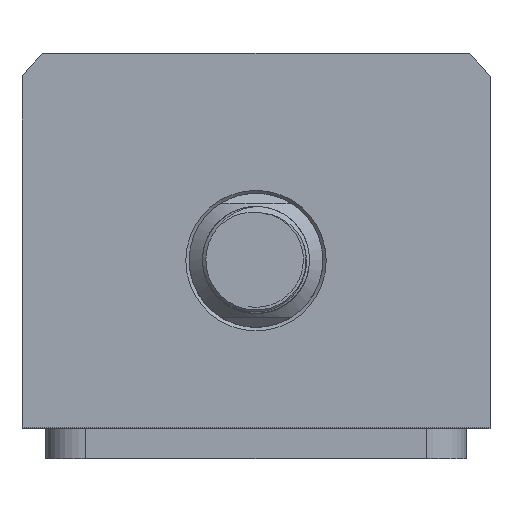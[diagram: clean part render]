
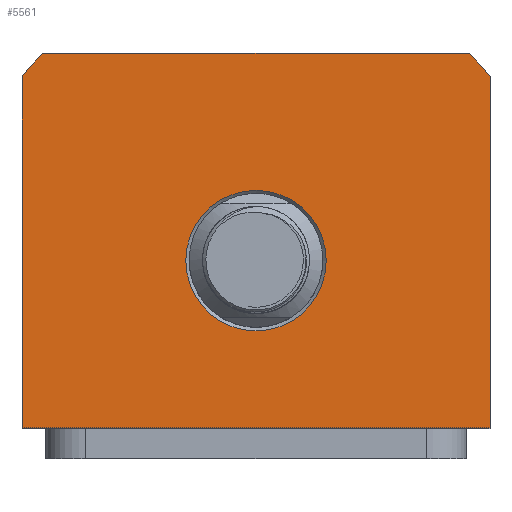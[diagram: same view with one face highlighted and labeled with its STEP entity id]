
A CAD part, top view. The second image highlights one B-rep face of the part: STEP entity #5561.
In plain terms, the highlighted planar face has unit normal (0, 0, 1).
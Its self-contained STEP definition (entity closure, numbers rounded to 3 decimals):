
#2494=PLANE('',#12169);
#2995=LINE('',#18537,#3856);
#3016=LINE('',#19175,#3877);
#3029=LINE('',#19224,#3890);
#3041=LINE('',#19253,#3902);
#3856=VECTOR('',#12704,1.);
#3877=VECTOR('',#12839,1.);
#3890=VECTOR('',#12888,1.);
#3902=VECTOR('',#12914,1.);
#5561=ADVANCED_FACE('',(#6109,#6110),#2494,.T.);
#6109=FACE_BOUND('',#6329,.T.);
#6110=FACE_BOUND('',#6330,.T.);
#6329=EDGE_LOOP('',(#7369));
#6330=EDGE_LOOP('',(#7370,#7371,#7372,#7373,#7374,#7375));
#7369=ORIENTED_EDGE('',*,*,#10730,.T.);
#7370=ORIENTED_EDGE('',*,*,#10825,.T.);
#7371=ORIENTED_EDGE('',*,*,#10729,.T.);
#7372=ORIENTED_EDGE('',*,*,#10832,.T.);
#7373=ORIENTED_EDGE('',*,*,#10849,.T.);
#7374=ORIENTED_EDGE('',*,*,#10829,.T.);
#7375=ORIENTED_EDGE('',*,*,#10866,.T.);
#9702=VERTEX_POINT('',#18507);
#9717=VERTEX_POINT('',#18536);
#9718=VERTEX_POINT('',#18540);
#9805=VERTEX_POINT('',#19171);
#9807=VERTEX_POINT('',#19178);
#9810=VERTEX_POINT('',#19183);
#9812=VERTEX_POINT('',#19189);
#10729=EDGE_CURVE('',#9702,#9717,#2995,.T.);
#10730=EDGE_CURVE('',#9718,#9718,#11924,.T.);
#10825=EDGE_CURVE('',#9805,#9702,#3016,.T.);
#10829=EDGE_CURVE('',#9807,#9810,#11958,.T.);
#10832=EDGE_CURVE('',#9717,#9812,#11960,.T.);
#10849=EDGE_CURVE('',#9812,#9807,#3029,.T.);
#10866=EDGE_CURVE('',#9810,#9805,#3041,.T.);
#11924=CIRCLE('',#12087,10.5);
#11958=CIRCLE('',#12145,44.5);
#11960=CIRCLE('',#12148,44.5);
#12087=AXIS2_PLACEMENT_3D('',#18539,#12707,#12708);
#12145=AXIS2_PLACEMENT_3D('',#19184,#12846,#12847);
#12148=AXIS2_PLACEMENT_3D('',#19190,#12853,#12854);
#12169=AXIS2_PLACEMENT_3D('',#19266,#12924,#12925);
#12704=DIRECTION('',(0.,1.,0.));
#12707=DIRECTION('',(0.,0.,-1.));
#12708=DIRECTION('',(1.,0.,0.));
#12839=DIRECTION('',(1.,0.,0.));
#12846=DIRECTION('',(0.,0.,1.));
#12847=DIRECTION('',(1.,0.,0.));
#12853=DIRECTION('',(0.,0.,1.));
#12854=DIRECTION('',(1.,0.,0.));
#12888=DIRECTION('',(-1.,0.,0.));
#12914=DIRECTION('',(0.,-1.,0.));
#12924=DIRECTION('',(0.,0.,1.));
#12925=DIRECTION('',(-1.,0.,0.));
#18507=CARTESIAN_POINT('',(35.,-25.,47.));
#18536=CARTESIAN_POINT('',(35.,27.482,47.));
#18537=CARTESIAN_POINT('',(35.,27.482,47.));
#18539=CARTESIAN_POINT('',(0.,0.,47.));
#18540=CARTESIAN_POINT('',(10.5,0.,47.));
#19171=CARTESIAN_POINT('',(-35.,-25.,47.));
#19175=CARTESIAN_POINT('',(35.,-25.,47.));
#19178=CARTESIAN_POINT('',(-31.926,31.,47.));
#19183=CARTESIAN_POINT('',(-35.,27.482,47.));
#19184=CARTESIAN_POINT('',(0.,0.,47.));
#19189=CARTESIAN_POINT('',(31.926,31.,47.));
#19190=CARTESIAN_POINT('',(0.,0.,47.));
#19224=CARTESIAN_POINT('',(-31.926,31.,47.));
#19253=CARTESIAN_POINT('',(-35.,-25.,47.));
#19266=CARTESIAN_POINT('',(0.,0.,47.));
